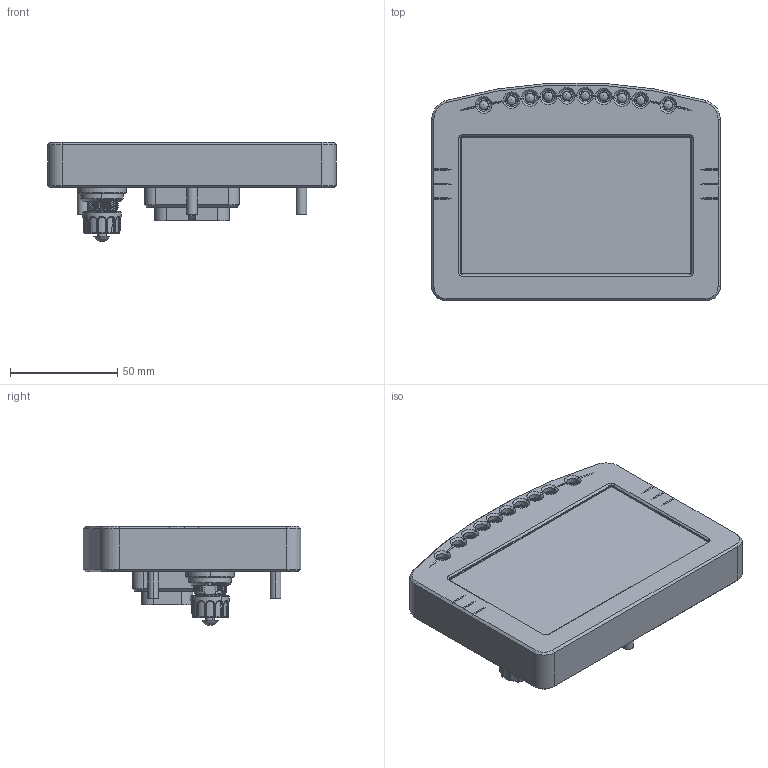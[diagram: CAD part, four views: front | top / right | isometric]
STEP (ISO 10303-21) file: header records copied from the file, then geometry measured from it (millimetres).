
FILE_DESCRIPTION (( 'STEP AP203' ), '1' );
FILE_NAME ('C125 - 18065.STEP', '2023-10-24T22:04:08', ( '' ), ( '' ), 'SwSTEP 2.0', 'SolidWorks 2022', '' );
FILE_SCHEMA (( 'CONFIG_CONTROL_DESIGN' ));
Products named in the file (1): C125 - 18065
Bounding box: 134.5 x 101.46 x 46.2 mm (x, y, z)
Surface area: 118807.9 mm2 (no closed solid volume)
Topology: 0 solids, 44 shells, 3072 faces, 9682 edges, 6744 vertices
Faces by surface type: plane 1694, cylinder 917, bspline 223, cone 170, torus 42, sphere 26
Entity records: 136554 total; most frequent: CARTESIAN_POINT 58165, ORIENTED_EDGE 19164, DIRECTION 12768, EDGE_CURVE 9582, VERTEX_POINT 6702, AXIS2_PLACEMENT_3D 4577, B_SPLINE_CURVE_WITH_KNOTS 3824, LINE 3614
